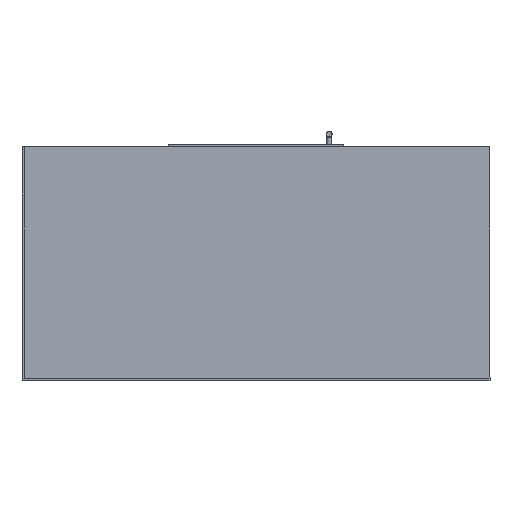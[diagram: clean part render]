
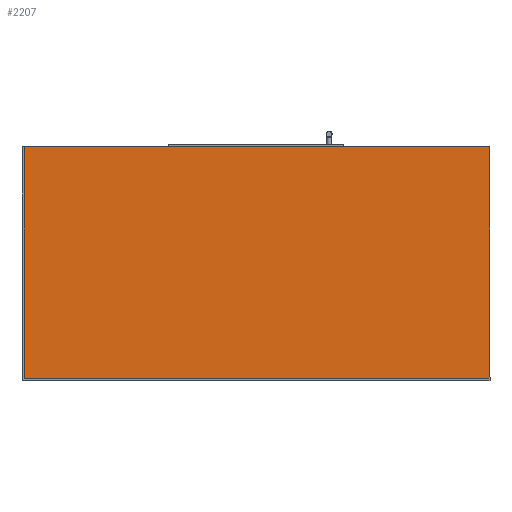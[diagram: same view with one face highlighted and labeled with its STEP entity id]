
A CAD part, front view. The second image highlights one B-rep face of the part: STEP entity #2207.
In plain terms, the highlighted planar face has unit normal (0, -1, 0).
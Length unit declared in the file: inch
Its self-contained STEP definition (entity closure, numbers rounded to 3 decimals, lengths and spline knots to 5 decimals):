
#38=PLANE('',#2376);
#209=LINE('',#4236,#476);
#213=LINE('',#4243,#480);
#214=LINE('',#4246,#481);
#215=LINE('',#4247,#482);
#476=VECTOR('',#2677,0.3937);
#480=VECTOR('',#2683,0.3937);
#481=VECTOR('',#2686,0.3937);
#482=VECTOR('',#2687,0.3937);
#707=FACE_OUTER_BOUND('',#827,.T.);
#827=EDGE_LOOP('',(#1698,#1699,#1700,#1701));
#1051=VERTEX_POINT('',#4233);
#1052=VERTEX_POINT('',#4235);
#1054=VERTEX_POINT('',#4241);
#1055=VERTEX_POINT('',#4245);
#1291=EDGE_CURVE('',#1052,#1051,#209,.T.);
#1295=EDGE_CURVE('',#1051,#1054,#213,.T.);
#1296=EDGE_CURVE('',#1055,#1054,#214,.T.);
#1297=EDGE_CURVE('',#1052,#1055,#215,.T.);
#1698=ORIENTED_EDGE('',*,*,#1291,.T.);
#1699=ORIENTED_EDGE('',*,*,#1295,.T.);
#1700=ORIENTED_EDGE('',*,*,#1296,.F.);
#1701=ORIENTED_EDGE('',*,*,#1297,.F.);
#2207=ADVANCED_FACE('',(#707),#38,.T.);
#2376=AXIS2_PLACEMENT_3D('',#4244,#2684,#2685);
#2677=DIRECTION('',(-1.,0.,0.));
#2683=DIRECTION('',(0.,0.,-1.));
#2684=DIRECTION('center_axis',(0.,-1.,0.));
#2685=DIRECTION('ref_axis',(-1.,0.,0.));
#2686=DIRECTION('',(-1.,0.,0.));
#2687=DIRECTION('',(0.,0.,-1.));
#4233=CARTESIAN_POINT('',(155.03171,-0.375,10.4922));
#4235=CARTESIAN_POINT('',(250.53171,-0.375,10.4922));
#4236=CARTESIAN_POINT('',(250.53171,-0.375,10.4922));
#4241=CARTESIAN_POINT('',(155.03171,-0.375,-37.0078));
#4243=CARTESIAN_POINT('',(155.03171,-0.375,10.4922));
#4244=CARTESIAN_POINT('Origin',(250.53171,-0.375,10.4922));
#4245=CARTESIAN_POINT('',(250.53171,-0.375,-37.0078));
#4246=CARTESIAN_POINT('',(250.53171,-0.375,-37.0078));
#4247=CARTESIAN_POINT('',(250.53171,-0.375,10.4922));
